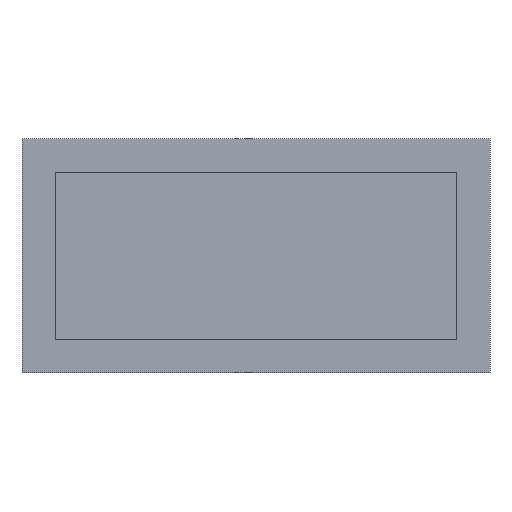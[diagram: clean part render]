
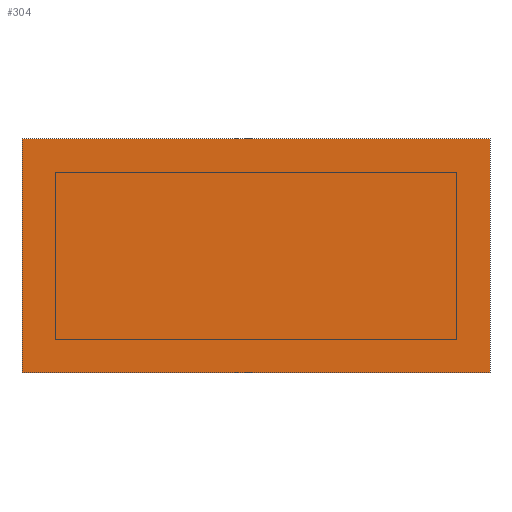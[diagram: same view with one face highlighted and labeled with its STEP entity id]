
A CAD part, front view. The second image highlights one B-rep face of the part: STEP entity #304.
In plain terms, the highlighted planar face has unit normal (0, -1, 0).
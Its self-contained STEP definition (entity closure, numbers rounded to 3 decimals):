
#55=ORIENTED_EDGE('',*,*,#114,.T.);
#56=ORIENTED_EDGE('',*,*,#117,.T.);
#57=ORIENTED_EDGE('',*,*,#120,.T.);
#58=ORIENTED_EDGE('',*,*,#122,.T.);
#114=EDGE_CURVE('',#145,#148,#178,.T.);
#117=EDGE_CURVE('',#148,#150,#181,.T.);
#120=EDGE_CURVE('',#150,#152,#184,.T.);
#122=EDGE_CURVE('',#152,#145,#186,.T.);
#145=VERTEX_POINT('',#452);
#148=VERTEX_POINT('',#457);
#150=VERTEX_POINT('',#463);
#152=VERTEX_POINT('',#469);
#178=LINE('',#458,#214);
#181=LINE('',#464,#217);
#184=LINE('',#470,#220);
#186=LINE('',#473,#222);
#214=VECTOR('',#374,1000.);
#217=VECTOR('',#379,1000.);
#220=VECTOR('',#384,1000.);
#222=VECTOR('',#388,1000.);
#243=EDGE_LOOP('',(#55,#56,#57,#58));
#265=FACE_BOUND('',#243,.T.);
#287=PLANE('',#335);
#304=ADVANCED_FACE('',(#265),#287,.T.);
#335=AXIS2_PLACEMENT_3D('',#474,#389,#390);
#374=DIRECTION('',(0.,0.,1.));
#379=DIRECTION('',(-1.,0.,0.));
#384=DIRECTION('',(0.,0.,-1.));
#388=DIRECTION('',(1.,0.,0.));
#389=DIRECTION('',(0.,-1.,0.));
#390=DIRECTION('',(0.,0.,-1.));
#452=CARTESIAN_POINT('',(7.,-2501.,-3.5));
#457=CARTESIAN_POINT('',(7.,-2501.,3.5));
#458=CARTESIAN_POINT('',(7.,-2501.,-3.5));
#463=CARTESIAN_POINT('',(-7.,-2501.,3.5));
#464=CARTESIAN_POINT('',(7.,-2501.,3.5));
#469=CARTESIAN_POINT('',(-7.,-2501.,-3.5));
#470=CARTESIAN_POINT('',(-7.,-2501.,3.5));
#473=CARTESIAN_POINT('',(-7.,-2501.,-3.5));
#474=CARTESIAN_POINT('',(0.,-2501.,0.));
